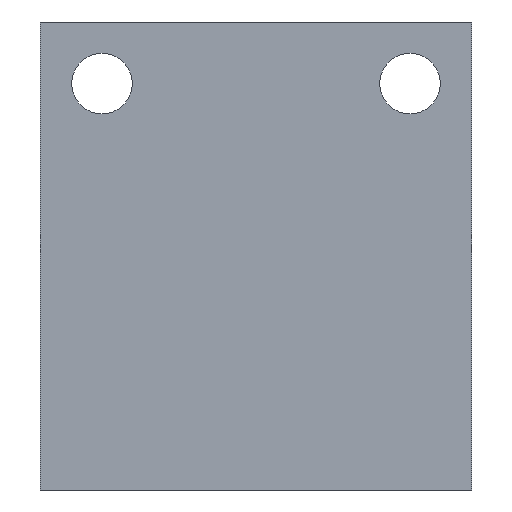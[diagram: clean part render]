
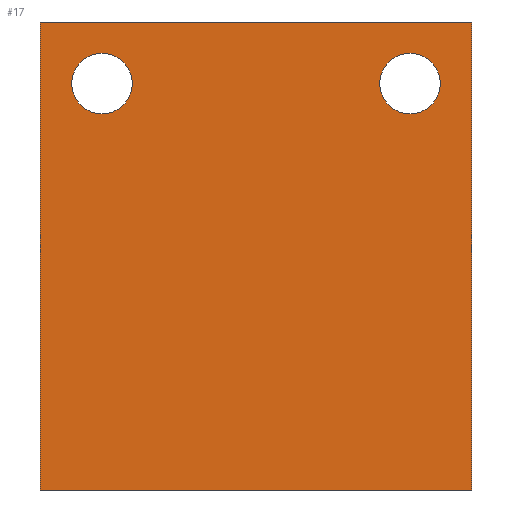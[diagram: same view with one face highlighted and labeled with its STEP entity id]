
A CAD part, left-side view. The second image highlights one B-rep face of the part: STEP entity #17.
In plain terms, the highlighted planar face has unit normal (-1, 0, 0).
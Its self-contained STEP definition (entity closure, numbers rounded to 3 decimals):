
#17 = ADVANCED_FACE('',(#18,#137,#168),#32,.F.);
#18 = FACE_BOUND('',#19,.F.);
#19 = EDGE_LOOP('',(#20,#55,#83,#111));
#20 = ORIENTED_EDGE('',*,*,#21,.F.);
#21 = EDGE_CURVE('',#22,#24,#26,.T.);
#22 = VERTEX_POINT('',#23);
#23 = CARTESIAN_POINT('',(38.9,-5.9,-71.5));
#24 = VERTEX_POINT('',#25);
#25 = CARTESIAN_POINT('',(38.9,-5.9,-52.2));
#26 = SURFACE_CURVE('',#27,(#31,#43),.PCURVE_S1.);
#27 = LINE('',#28,#29);
#28 = CARTESIAN_POINT('',(38.9,-5.9,-71.5));
#29 = VECTOR('',#30,1.);
#30 = DIRECTION('',(0.,0.,1.));
#31 = PCURVE('',#32,#37);
#32 = PLANE('',#33);
#33 = AXIS2_PLACEMENT_3D('',#34,#35,#36);
#34 = CARTESIAN_POINT('',(38.9,-5.9,-71.5));
#35 = DIRECTION('',(1.,0.,-0.));
#36 = DIRECTION('',(0.,0.,1.));
#37 = DEFINITIONAL_REPRESENTATION('',(#38),#42);
#38 = LINE('',#39,#40);
#39 = CARTESIAN_POINT('',(0.,0.));
#40 = VECTOR('',#41,1.);
#41 = DIRECTION('',(1.,0.));
#42 = ( GEOMETRIC_REPRESENTATION_CONTEXT(2) 
PARAMETRIC_REPRESENTATION_CONTEXT() REPRESENTATION_CONTEXT('2D SPACE',''
  ) );
#43 = PCURVE('',#44,#49);
#44 = PLANE('',#45);
#45 = AXIS2_PLACEMENT_3D('',#46,#47,#48);
#46 = CARTESIAN_POINT('',(38.9,-5.9,-71.5));
#47 = DIRECTION('',(-0.,1.,0.));
#48 = DIRECTION('',(0.,0.,1.));
#49 = DEFINITIONAL_REPRESENTATION('',(#50),#54);
#50 = LINE('',#51,#52);
#51 = CARTESIAN_POINT('',(0.,0.));
#52 = VECTOR('',#53,1.);
#53 = DIRECTION('',(1.,0.));
#54 = ( GEOMETRIC_REPRESENTATION_CONTEXT(2) 
PARAMETRIC_REPRESENTATION_CONTEXT() REPRESENTATION_CONTEXT('2D SPACE',''
  ) );
#55 = ORIENTED_EDGE('',*,*,#56,.T.);
#56 = EDGE_CURVE('',#22,#57,#59,.T.);
#57 = VERTEX_POINT('',#58);
#58 = CARTESIAN_POINT('',(38.9,11.9,-71.5));
#59 = SURFACE_CURVE('',#60,(#64,#71),.PCURVE_S1.);
#60 = LINE('',#61,#62);
#61 = CARTESIAN_POINT('',(38.9,-5.9,-71.5));
#62 = VECTOR('',#63,1.);
#63 = DIRECTION('',(-0.,1.,0.));
#64 = PCURVE('',#32,#65);
#65 = DEFINITIONAL_REPRESENTATION('',(#66),#70);
#66 = LINE('',#67,#68);
#67 = CARTESIAN_POINT('',(0.,0.));
#68 = VECTOR('',#69,1.);
#69 = DIRECTION('',(0.,-1.));
#70 = ( GEOMETRIC_REPRESENTATION_CONTEXT(2) 
PARAMETRIC_REPRESENTATION_CONTEXT() REPRESENTATION_CONTEXT('2D SPACE',''
  ) );
#71 = PCURVE('',#72,#77);
#72 = PLANE('',#73);
#73 = AXIS2_PLACEMENT_3D('',#74,#75,#76);
#74 = CARTESIAN_POINT('',(38.9,-5.9,-71.5));
#75 = DIRECTION('',(0.,0.,1.));
#76 = DIRECTION('',(1.,0.,-0.));
#77 = DEFINITIONAL_REPRESENTATION('',(#78),#82);
#78 = LINE('',#79,#80);
#79 = CARTESIAN_POINT('',(0.,0.));
#80 = VECTOR('',#81,1.);
#81 = DIRECTION('',(0.,1.));
#82 = ( GEOMETRIC_REPRESENTATION_CONTEXT(2) 
PARAMETRIC_REPRESENTATION_CONTEXT() REPRESENTATION_CONTEXT('2D SPACE',''
  ) );
#83 = ORIENTED_EDGE('',*,*,#84,.T.);
#84 = EDGE_CURVE('',#57,#85,#87,.T.);
#85 = VERTEX_POINT('',#86);
#86 = CARTESIAN_POINT('',(38.9,11.9,-52.2));
#87 = SURFACE_CURVE('',#88,(#92,#99),.PCURVE_S1.);
#88 = LINE('',#89,#90);
#89 = CARTESIAN_POINT('',(38.9,11.9,-71.5));
#90 = VECTOR('',#91,1.);
#91 = DIRECTION('',(0.,0.,1.));
#92 = PCURVE('',#32,#93);
#93 = DEFINITIONAL_REPRESENTATION('',(#94),#98);
#94 = LINE('',#95,#96);
#95 = CARTESIAN_POINT('',(0.,-17.8));
#96 = VECTOR('',#97,1.);
#97 = DIRECTION('',(1.,0.));
#98 = ( GEOMETRIC_REPRESENTATION_CONTEXT(2) 
PARAMETRIC_REPRESENTATION_CONTEXT() REPRESENTATION_CONTEXT('2D SPACE',''
  ) );
#99 = PCURVE('',#100,#105);
#100 = PLANE('',#101);
#101 = AXIS2_PLACEMENT_3D('',#102,#103,#104);
#102 = CARTESIAN_POINT('',(38.9,11.9,-71.5));
#103 = DIRECTION('',(-0.,1.,0.));
#104 = DIRECTION('',(0.,0.,1.));
#105 = DEFINITIONAL_REPRESENTATION('',(#106),#110);
#106 = LINE('',#107,#108);
#107 = CARTESIAN_POINT('',(0.,0.));
#108 = VECTOR('',#109,1.);
#109 = DIRECTION('',(1.,0.));
#110 = ( GEOMETRIC_REPRESENTATION_CONTEXT(2) 
PARAMETRIC_REPRESENTATION_CONTEXT() REPRESENTATION_CONTEXT('2D SPACE',''
  ) );
#111 = ORIENTED_EDGE('',*,*,#112,.F.);
#112 = EDGE_CURVE('',#24,#85,#113,.T.);
#113 = SURFACE_CURVE('',#114,(#118,#125),.PCURVE_S1.);
#114 = LINE('',#115,#116);
#115 = CARTESIAN_POINT('',(38.9,-5.9,-52.2));
#116 = VECTOR('',#117,1.);
#117 = DIRECTION('',(-0.,1.,0.));
#118 = PCURVE('',#32,#119);
#119 = DEFINITIONAL_REPRESENTATION('',(#120),#124);
#120 = LINE('',#121,#122);
#121 = CARTESIAN_POINT('',(19.3,0.));
#122 = VECTOR('',#123,1.);
#123 = DIRECTION('',(0.,-1.));
#124 = ( GEOMETRIC_REPRESENTATION_CONTEXT(2) 
PARAMETRIC_REPRESENTATION_CONTEXT() REPRESENTATION_CONTEXT('2D SPACE',''
  ) );
#125 = PCURVE('',#126,#131);
#126 = PLANE('',#127);
#127 = AXIS2_PLACEMENT_3D('',#128,#129,#130);
#128 = CARTESIAN_POINT('',(38.9,-5.9,-52.2));
#129 = DIRECTION('',(0.,0.,1.));
#130 = DIRECTION('',(1.,0.,-0.));
#131 = DEFINITIONAL_REPRESENTATION('',(#132),#136);
#132 = LINE('',#133,#134);
#133 = CARTESIAN_POINT('',(0.,0.));
#134 = VECTOR('',#135,1.);
#135 = DIRECTION('',(0.,1.));
#136 = ( GEOMETRIC_REPRESENTATION_CONTEXT(2) 
PARAMETRIC_REPRESENTATION_CONTEXT() REPRESENTATION_CONTEXT('2D SPACE',''
  ) );
#137 = FACE_BOUND('',#138,.F.);
#138 = EDGE_LOOP('',(#139));
#139 = ORIENTED_EDGE('',*,*,#140,.F.);
#140 = EDGE_CURVE('',#141,#141,#143,.T.);
#141 = VERTEX_POINT('',#142);
#142 = CARTESIAN_POINT('',(38.9,9.35,-55.99));
#143 = SURFACE_CURVE('',#144,(#149,#156),.PCURVE_S1.);
#144 = CIRCLE('',#145,1.25);
#145 = AXIS2_PLACEMENT_3D('',#146,#147,#148);
#146 = CARTESIAN_POINT('',(38.9,9.35,-54.74));
#147 = DIRECTION('',(1.,0.,0.));
#148 = DIRECTION('',(0.,0.,-1.));
#149 = PCURVE('',#32,#150);
#150 = DEFINITIONAL_REPRESENTATION('',(#151),#155);
#151 = CIRCLE('',#152,1.25);
#152 = AXIS2_PLACEMENT_2D('',#153,#154);
#153 = CARTESIAN_POINT('',(16.76,-15.25));
#154 = DIRECTION('',(-1.,0.));
#155 = ( GEOMETRIC_REPRESENTATION_CONTEXT(2) 
PARAMETRIC_REPRESENTATION_CONTEXT() REPRESENTATION_CONTEXT('2D SPACE',''
  ) );
#156 = PCURVE('',#157,#162);
#157 = CYLINDRICAL_SURFACE('',#158,1.25);
#158 = AXIS2_PLACEMENT_3D('',#159,#160,#161);
#159 = CARTESIAN_POINT('',(38.4,9.35,-54.74));
#160 = DIRECTION('',(1.,0.,0.));
#161 = DIRECTION('',(0.,0.,-1.));
#162 = DEFINITIONAL_REPRESENTATION('',(#163),#167);
#163 = LINE('',#164,#165);
#164 = CARTESIAN_POINT('',(0.,0.5));
#165 = VECTOR('',#166,1.);
#166 = DIRECTION('',(1.,0.));
#167 = ( GEOMETRIC_REPRESENTATION_CONTEXT(2) 
PARAMETRIC_REPRESENTATION_CONTEXT() REPRESENTATION_CONTEXT('2D SPACE',''
  ) );
#168 = FACE_BOUND('',#169,.F.);
#169 = EDGE_LOOP('',(#170));
#170 = ORIENTED_EDGE('',*,*,#171,.F.);
#171 = EDGE_CURVE('',#172,#172,#174,.T.);
#172 = VERTEX_POINT('',#173);
#173 = CARTESIAN_POINT('',(38.9,-3.35,-55.99));
#174 = SURFACE_CURVE('',#175,(#180,#187),.PCURVE_S1.);
#175 = CIRCLE('',#176,1.25);
#176 = AXIS2_PLACEMENT_3D('',#177,#178,#179);
#177 = CARTESIAN_POINT('',(38.9,-3.35,-54.74));
#178 = DIRECTION('',(1.,0.,0.));
#179 = DIRECTION('',(0.,0.,-1.));
#180 = PCURVE('',#32,#181);
#181 = DEFINITIONAL_REPRESENTATION('',(#182),#186);
#182 = CIRCLE('',#183,1.25);
#183 = AXIS2_PLACEMENT_2D('',#184,#185);
#184 = CARTESIAN_POINT('',(16.76,-2.55));
#185 = DIRECTION('',(-1.,0.));
#186 = ( GEOMETRIC_REPRESENTATION_CONTEXT(2) 
PARAMETRIC_REPRESENTATION_CONTEXT() REPRESENTATION_CONTEXT('2D SPACE',''
  ) );
#187 = PCURVE('',#188,#193);
#188 = CYLINDRICAL_SURFACE('',#189,1.25);
#189 = AXIS2_PLACEMENT_3D('',#190,#191,#192);
#190 = CARTESIAN_POINT('',(38.4,-3.35,-54.74));
#191 = DIRECTION('',(1.,0.,0.));
#192 = DIRECTION('',(0.,0.,-1.));
#193 = DEFINITIONAL_REPRESENTATION('',(#194),#198);
#194 = LINE('',#195,#196);
#195 = CARTESIAN_POINT('',(0.,0.5));
#196 = VECTOR('',#197,1.);
#197 = DIRECTION('',(1.,0.));
#198 = ( GEOMETRIC_REPRESENTATION_CONTEXT(2) 
PARAMETRIC_REPRESENTATION_CONTEXT() REPRESENTATION_CONTEXT('2D SPACE',''
  ) );
